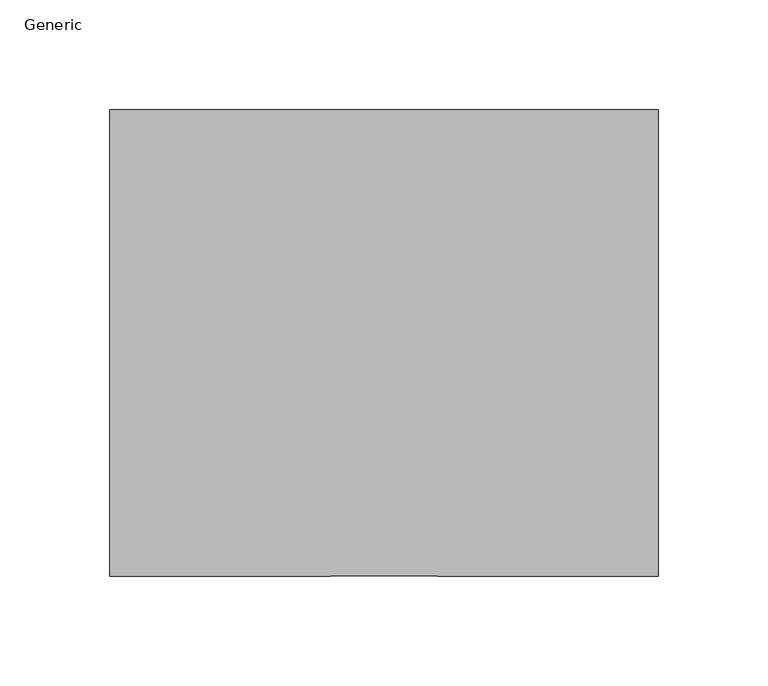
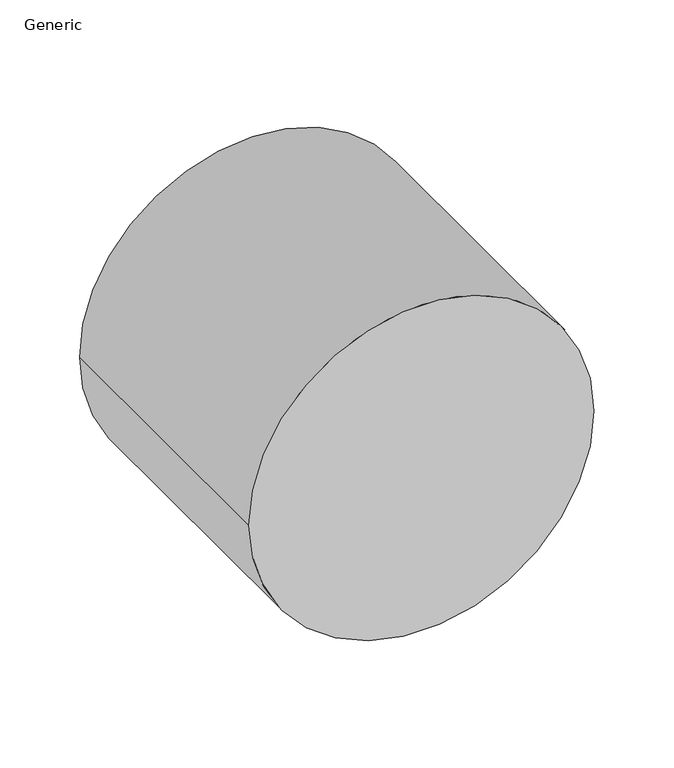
"""IFC4 building model written with IfcOpenShell, lengths in millimetres: proxy geometry, GM_Conduct : Generic."""

from ifc_helpers import new_model, si_unit, point, frame, frame_2d, origin, place, context, project, spatial, circle_curve, trimmed, segment, composite_curve, outline, extrude, source, transform, mapped, element, save


def generic_71049ee5(model_context):
    return source(origin(), model_context, "Body", "SweptSolid", [
        extrude(outline(composite_curve([segment(trimmed(circle_curve(frame_2d((82.5, 0.0)), 125.0), [point((82.5, 125.0))], [point((82.5, -125.0))], False, "CARTESIAN"), True, "CONTINUOUS"), segment(trimmed(circle_curve(frame_2d((82.5, 0.0)), 125.0), [point((82.5, -125.0))], [point((82.5, 125.0))], False, "CARTESIAN"), True, "CONTINUOUS")], self_intersect=False)), frame((0.0, -212.5, 0.0), z_axis=(0.0, 1.0, 0.0), x_axis=(0.0, 0.0, 1.0)), (0.0, 0.0, 1.0), 212.5),
    ])


if __name__ == "__main__":
    model = new_model("IFC4")
    model_context = context("Model", 3, world=origin())
    ifc_project = project(units=[si_unit("LENGTHUNIT", "METRE", prefix="MILLI")], contexts=[model_context])
    site = spatial("IfcSite", under=ifc_project)
    building = spatial("IfcBuilding", under=site)
    placement = place(None, origin())
    generic_shape = generic_71049ee5(model_context)
    element("IfcBuildingElementProxy", 1, Name="GM_Conduct : Generic", ObjectType="GM_Conduct : Generic", at=placement, inside=building, context=model_context, shape_type="MappedRepresentation", body=[
        mapped(generic_shape, transform((0.0, 0.0, 0.0), x_axis=(1.0, 0.0, 0.0), y_axis=(0.0, 1.0, 0.0), z_axis=(0.0, 0.0, 1.0))),
    ])
    save(model, "model.ifc")
